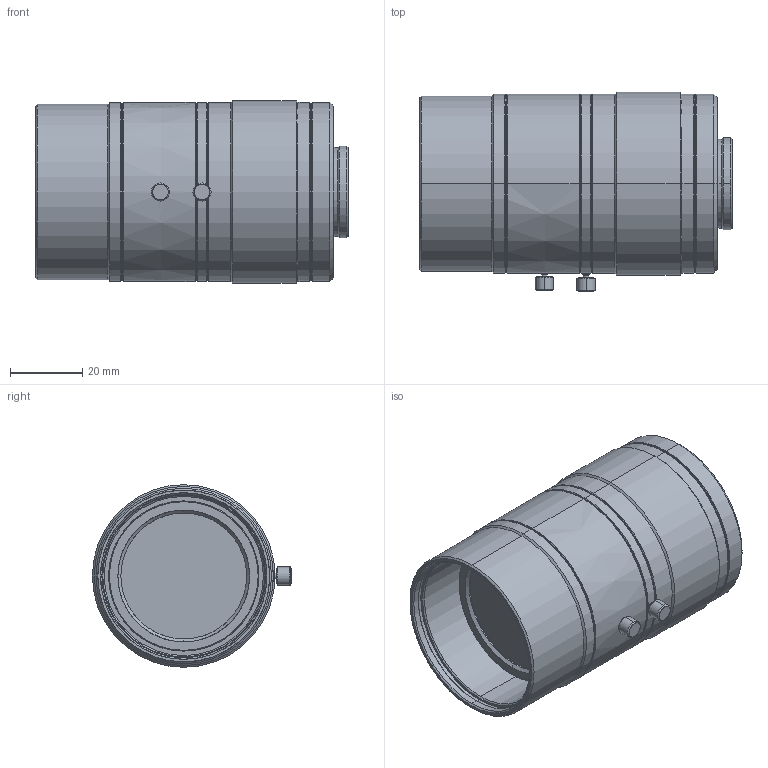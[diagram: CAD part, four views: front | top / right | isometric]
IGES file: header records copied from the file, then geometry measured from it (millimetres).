
Start section: SolidWorks IGES file using analytic representation for surfaces
Global section: file name: \\192.168.200.11\Development\3 製品\1 標準品\01 マクロレンズ\03 VS-LLD series\350 VS-LLD35\10.3D外観モデル\VS-LLD35.IGS; native system: SolidWorks 2015; preprocessor: SolidWorks 2015; author: miura_vst; date: 150722.174643; units: millimetre
Bounding box: 86.47 x 55.05 x 50.5 mm (x, y, z)
Surface area: 24814.8 mm2 (no closed solid volume)
Topology: 0 solids, 0 shells, 149 faces, 2968 edges, 2967 vertices
Faces by surface type: revolution 126, bspline 23
